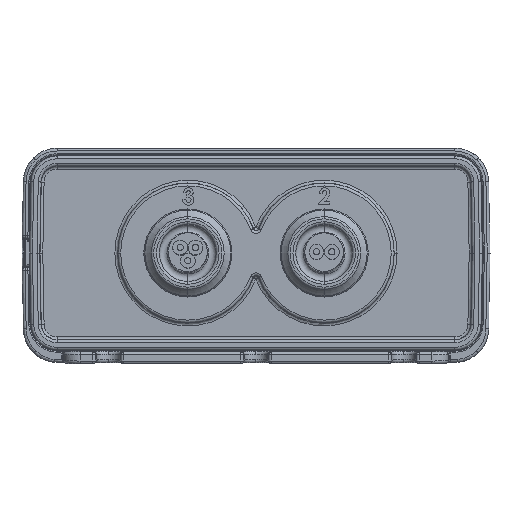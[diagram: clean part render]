
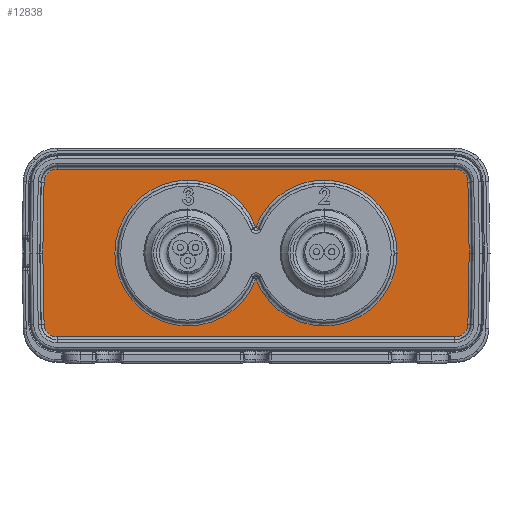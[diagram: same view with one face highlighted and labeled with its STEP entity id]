
A CAD part, top view. The second image highlights one B-rep face of the part: STEP entity #12838.
In plain terms, the highlighted planar face has unit normal (0, 0, 1).
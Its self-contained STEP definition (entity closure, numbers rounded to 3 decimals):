
#175 = CARTESIAN_POINT ( 'NONE',  ( 37.516, 0., -2.4 ) ) ;
#257 = ORIENTED_EDGE ( 'NONE', *, *, #12811, .T. ) ;
#298 = CARTESIAN_POINT ( 'NONE',  ( -12., 0., -2.4 ) ) ;
#370 = VECTOR ( 'NONE', #28767, 1000. ) ;
#712 = VERTEX_POINT ( 'NONE', #27156 ) ;
#1632 = EDGE_CURVE ( 'NONE', #34408, #11658, #19329, .T. ) ;
#1703 = CARTESIAN_POINT ( 'NONE',  ( -34.982, -12.45, -2.4 ) ) ;
#1712 = VECTOR ( 'NONE', #38160, 1000. ) ;
#1720 = CARTESIAN_POINT ( 'NONE',  ( -37.505, 0.655, -2.4 ) ) ;
#2106 = ORIENTED_EDGE ( 'NONE', *, *, #17371, .T. ) ;
#2304 = CARTESIAN_POINT ( 'NONE',  ( -34.982, 14.767, -2.4 ) ) ;
#2399 = DIRECTION ( 'NONE',  ( 1., 0., 0. ) ) ;
#2457 = DIRECTION ( 'NONE',  ( 0., 0., 1. ) ) ;
#2469 = CARTESIAN_POINT ( 'NONE',  ( 34.982, 12.45, -2.4 ) ) ;
#3760 = DIRECTION ( 'NONE',  ( 1., 0., 0. ) ) ;
#4088 = CARTESIAN_POINT ( 'NONE',  ( 12., 0., -2.4 ) ) ;
#5129 = DIRECTION ( 'NONE',  ( 1., 0., 0. ) ) ;
#5416 = EDGE_CURVE ( 'NONE', #712, #12745, #25523, .T. ) ;
#5599 = AXIS2_PLACEMENT_3D ( 'NONE', #41233, #14249, #37941 ) ;
#6068 = AXIS2_PLACEMENT_3D ( 'NONE', #298, #23952, #3760 ) ;
#6291 = ORIENTED_EDGE ( 'NONE', *, *, #11652, .T. ) ;
#6381 = EDGE_CURVE ( 'NONE', #29157, #20834, #35255, .T. ) ;
#6506 = VECTOR ( 'NONE', #23511, 1000. ) ;
#6893 = CARTESIAN_POINT ( 'NONE',  ( -34.982, 12.45, -2.4 ) ) ;
#7475 = DIRECTION ( 'NONE',  ( 1., 0., 0. ) ) ;
#9151 = VERTEX_POINT ( 'NONE', #19338 ) ;
#9401 = LINE ( 'NONE', #1720, #370 ) ;
#9703 = EDGE_LOOP ( 'NONE', ( #11129, #33933, #2106, #42852, #23798, #42323, #20005, #6291, #21566, #18431 ) ) ;
#9966 = ORIENTED_EDGE ( 'NONE', *, *, #6381, .T. ) ;
#10267 = DIRECTION ( 'NONE',  ( 1., 0., 0. ) ) ;
#10486 = DIRECTION ( 'NONE',  ( -1., 0., 0. ) ) ;
#10845 = PLANE ( 'NONE',  #5599 ) ;
#11064 = CARTESIAN_POINT ( 'NONE',  ( 0., -14.767, -2.4 ) ) ;
#11129 = ORIENTED_EDGE ( 'NONE', *, *, #35591, .T. ) ;
#11652 = EDGE_CURVE ( 'NONE', #30827, #34408, #34567, .T. ) ;
#11658 = VERTEX_POINT ( 'NONE', #2304 ) ;
#12745 = VERTEX_POINT ( 'NONE', #175 ) ;
#12811 = EDGE_CURVE ( 'NONE', #20834, #32048, #33670, .T. ) ;
#12838 = ADVANCED_FACE ( 'NONE', ( #39896, #39583 ), #10845, .T. ) ;
#13257 = CIRCLE ( 'NONE', #40940, 2.317 ) ;
#13411 = AXIS2_PLACEMENT_3D ( 'NONE', #1703, #25379, #5129 ) ;
#14227 = VECTOR ( 'NONE', #41423, 1000. ) ;
#14249 = DIRECTION ( 'NONE',  ( 0., 0., 1. ) ) ;
#14650 = CIRCLE ( 'NONE', #6068, 12.833 ) ;
#14887 = DIRECTION ( 'NONE',  ( 0., 0., 1. ) ) ;
#15604 = CARTESIAN_POINT ( 'NONE',  ( -37.516, 0., -2.4 ) ) ;
#15912 = CARTESIAN_POINT ( 'NONE',  ( 0., -4.549, -2.4 ) ) ;
#15934 = CARTESIAN_POINT ( 'NONE',  ( 0., 14.767, -2.4 ) ) ;
#16144 = DIRECTION ( 'NONE',  ( 0.017, -1., 0. ) ) ;
#16427 = CARTESIAN_POINT ( 'NONE',  ( 37.505, 0.655, -2.4 ) ) ;
#16543 = LINE ( 'NONE', #26333, #36676 ) ;
#17371 = EDGE_CURVE ( 'NONE', #9151, #40761, #25730, .T. ) ;
#18431 = ORIENTED_EDGE ( 'NONE', *, *, #42368, .T. ) ;
#19329 = LINE ( 'NONE', #15934, #24490 ) ;
#19338 = CARTESIAN_POINT ( 'NONE',  ( -37.298, -12.49, -2.4 ) ) ;
#20005 = ORIENTED_EDGE ( 'NONE', *, *, #39055, .T. ) ;
#20048 = CIRCLE ( 'NONE', #37062, 2.317 ) ;
#20834 = VERTEX_POINT ( 'NONE', #24739 ) ;
#21206 = CARTESIAN_POINT ( 'NONE',  ( 37.505, -0.655, -2.4 ) ) ;
#21566 = ORIENTED_EDGE ( 'NONE', *, *, #1632, .T. ) ;
#22306 = CARTESIAN_POINT ( 'NONE',  ( -37.298, 12.49, -2.4 ) ) ;
#22458 = VERTEX_POINT ( 'NONE', #39383 ) ;
#23361 = EDGE_CURVE ( 'NONE', #22458, #712, #13257, .T. ) ;
#23511 = DIRECTION ( 'NONE',  ( -0.017, 1., 0. ) ) ;
#23798 = ORIENTED_EDGE ( 'NONE', *, *, #23361, .T. ) ;
#23952 = DIRECTION ( 'NONE',  ( 0., 0., -1. ) ) ;
#24490 = VECTOR ( 'NONE', #10486, 1000. ) ;
#24739 = CARTESIAN_POINT ( 'NONE',  ( 24.833, 0., -2.4 ) ) ;
#24954 = DIRECTION ( 'NONE',  ( 1., 0., 0. ) ) ;
#25092 = DIRECTION ( 'NONE',  ( 0., 0., -1. ) ) ;
#25129 = EDGE_CURVE ( 'NONE', #32048, #29157, #14650, .T. ) ;
#25233 = CARTESIAN_POINT ( 'NONE',  ( 12., 0., -2.4 ) ) ;
#25379 = DIRECTION ( 'NONE',  ( 0., 0., 1. ) ) ;
#25523 = LINE ( 'NONE', #21206, #14227 ) ;
#25730 = CIRCLE ( 'NONE', #13411, 2.317 ) ;
#26333 = CARTESIAN_POINT ( 'NONE',  ( -37.505, -0.655, -2.4 ) ) ;
#26439 = CARTESIAN_POINT ( 'NONE',  ( 34.982, 14.767, -2.4 ) ) ;
#27142 = EDGE_LOOP ( 'NONE', ( #43328, #9966, #257 ) ) ;
#27156 = CARTESIAN_POINT ( 'NONE',  ( 37.298, -12.49, -2.4 ) ) ;
#27693 = DIRECTION ( 'NONE',  ( 0., 0., -1. ) ) ;
#28767 = DIRECTION ( 'NONE',  ( -0.017, -1., 0. ) ) ;
#28798 = EDGE_CURVE ( 'NONE', #40761, #22458, #37741, .T. ) ;
#29157 = VERTEX_POINT ( 'NONE', #36765 ) ;
#30492 = DIRECTION ( 'NONE',  ( 0., 0., 1. ) ) ;
#30827 = VERTEX_POINT ( 'NONE', #37827 ) ;
#31363 = AXIS2_PLACEMENT_3D ( 'NONE', #25233, #25092, #24954 ) ;
#31944 = VERTEX_POINT ( 'NONE', #15604 ) ;
#32048 = VERTEX_POINT ( 'NONE', #15912 ) ;
#33480 = LINE ( 'NONE', #16427, #6506 ) ;
#33670 = CIRCLE ( 'NONE', #35884, 12.833 ) ;
#33933 = ORIENTED_EDGE ( 'NONE', *, *, #39013, .T. ) ;
#34408 = VERTEX_POINT ( 'NONE', #26439 ) ;
#34567 = CIRCLE ( 'NONE', #38166, 2.317 ) ;
#35156 = CARTESIAN_POINT ( 'NONE',  ( 34.982, -12.45, -2.4 ) ) ;
#35255 = CIRCLE ( 'NONE', #31363, 12.833 ) ;
#35591 = EDGE_CURVE ( 'NONE', #38709, #31944, #9401, .T. ) ;
#35884 = AXIS2_PLACEMENT_3D ( 'NONE', #4088, #27693, #7475 ) ;
#36676 = VECTOR ( 'NONE', #16144, 1000. ) ;
#36765 = CARTESIAN_POINT ( 'NONE',  ( 0., 4.549, -2.4 ) ) ;
#37062 = AXIS2_PLACEMENT_3D ( 'NONE', #6893, #30492, #10267 ) ;
#37741 = LINE ( 'NONE', #11064, #1712 ) ;
#37827 = CARTESIAN_POINT ( 'NONE',  ( 37.298, 12.49, -2.4 ) ) ;
#37941 = DIRECTION ( 'NONE',  ( 1., 0., 0. ) ) ;
#38160 = DIRECTION ( 'NONE',  ( 1., 0., 0. ) ) ;
#38166 = AXIS2_PLACEMENT_3D ( 'NONE', #2469, #2457, #2399 ) ;
#38597 = DIRECTION ( 'NONE',  ( 1., 0., 0. ) ) ;
#38709 = VERTEX_POINT ( 'NONE', #22306 ) ;
#39013 = EDGE_CURVE ( 'NONE', #31944, #9151, #16543, .T. ) ;
#39055 = EDGE_CURVE ( 'NONE', #12745, #30827, #33480, .T. ) ;
#39383 = CARTESIAN_POINT ( 'NONE',  ( 34.982, -14.767, -2.4 ) ) ;
#39583 = FACE_BOUND ( 'NONE', #27142, .T. ) ;
#39896 = FACE_OUTER_BOUND ( 'NONE', #9703, .T. ) ;
#40761 = VERTEX_POINT ( 'NONE', #42929 ) ;
#40940 = AXIS2_PLACEMENT_3D ( 'NONE', #35156, #14887, #38597 ) ;
#41233 = CARTESIAN_POINT ( 'NONE',  ( 0., 0., -2.4 ) ) ;
#41423 = DIRECTION ( 'NONE',  ( 0.017, 1., 0. ) ) ;
#42323 = ORIENTED_EDGE ( 'NONE', *, *, #5416, .T. ) ;
#42368 = EDGE_CURVE ( 'NONE', #11658, #38709, #20048, .T. ) ;
#42852 = ORIENTED_EDGE ( 'NONE', *, *, #28798, .T. ) ;
#42929 = CARTESIAN_POINT ( 'NONE',  ( -34.982, -14.767, -2.4 ) ) ;
#43328 = ORIENTED_EDGE ( 'NONE', *, *, #25129, .T. ) ;
